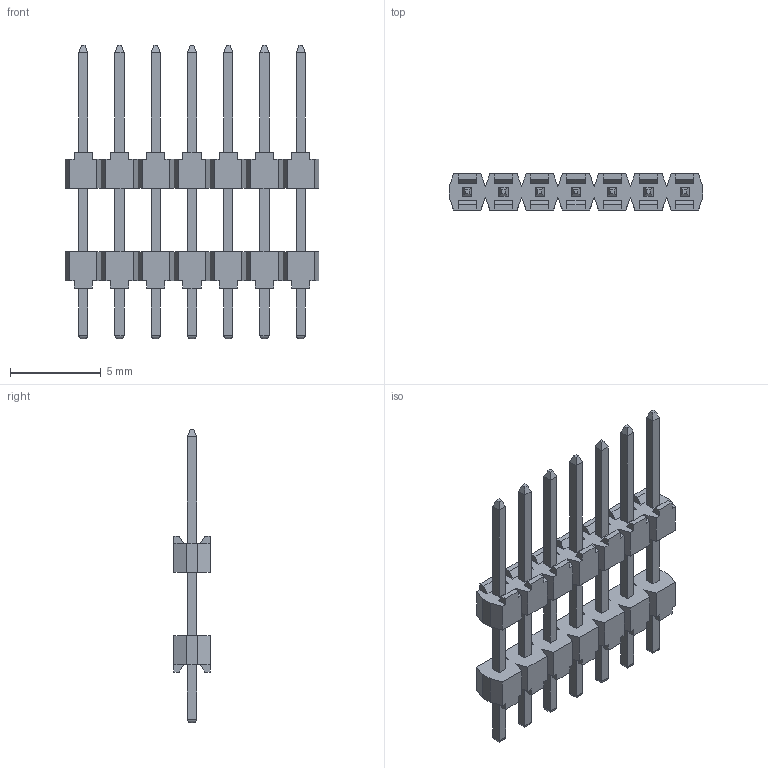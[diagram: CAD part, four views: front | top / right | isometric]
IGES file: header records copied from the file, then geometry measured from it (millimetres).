
Global section: file name: N:\GOLF_VI_2mm_UGII\9514XX_906XX06_AR\951407-9061506-AR.igs; native system: NX V3.0; preprocessor: UGS NX IGES V4.0; date: 20070314.142313; units: millimetre
Bounding box: 14 x 2 x 16.2 mm (x, y, z)
Surface area: 440.5 mm2 (no closed solid volume)
Topology: 0 solids, 0 shells, 358 faces, 1929 edges, 1929 vertices
Faces by surface type: bspline 358
